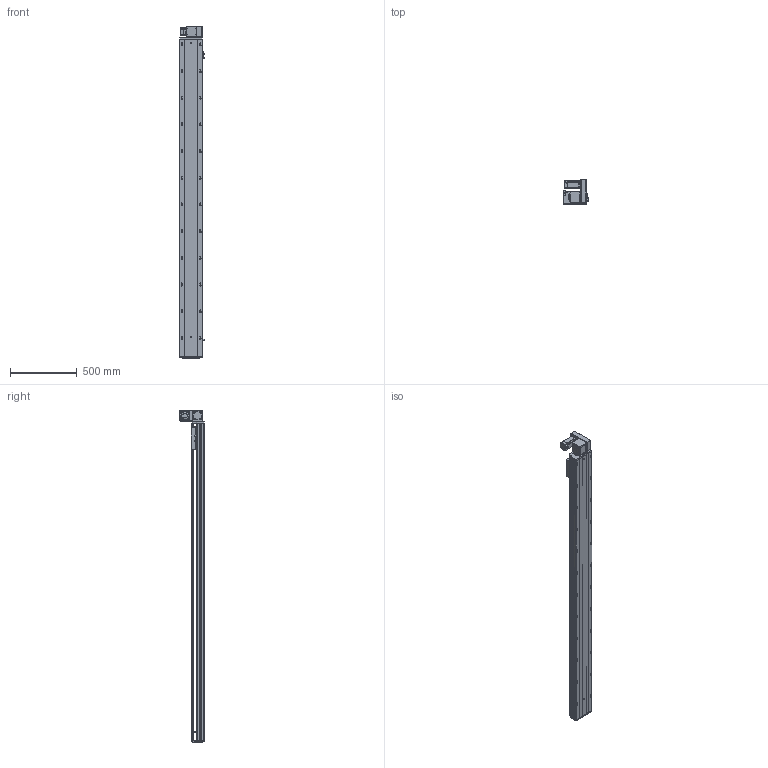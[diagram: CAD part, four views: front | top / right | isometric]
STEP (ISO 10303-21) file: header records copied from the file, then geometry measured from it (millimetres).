
FILE_DESCRIPTION (( 'STEP AP203' ), '1' );
FILE_NAME ('RY170-T-300-UR-P400W.SLDASM_2100.step', '2021-03-01T09:29:14', ( '盈信电脑' ), ( '东莞市道滘镇水果街19号' ), 'SwSTEP 2.0', 'SolidWorks 2012', '' );
FILE_SCHEMA (( 'CONFIG_CONTROL_DESIGN' ));
Length unit declared in the file: millimetre
Products named in the file (18): 滅袉蝶18-10; RY170-T-300-UR-P400W.SLDASM_2100; 15; RY170-T肮祭謫裔啣; RY170-T肮祭湍揤踡輸2; RY170-T蹟翐M4; RY120-T主同步轮轴承压盖; RY170肮祭謫萇儂欶; RY170同步轮电机安装板(400W); RY170-T肮祭湍揤踡輸1; RY170翋肮祭謫釱; RY170外置感应片(200共用）; RY170肮祭謫ヶ裔啣; RY170綴裔啣; 覜茼ん672; RY170-T-300肮祭謫倰第菁釱-DR_2100; RY170-T-300肮祭謫倰第裔啣-DR_2100; RY170肮祭湍臏賑輸
Assembly tree (22 placements, depth 2):
  RY170-T-300-UR-P400W.SLDASM_2100
    RY170-T-300肮祭謫倰第菁釱-DR_2100
    RY170肮祭湍臏賑輸
    RY170-T-300肮祭謫倰第裔啣-DR_2100
    RY170綴裔啣
    覜茼ん672  x3
    RY170外置感应片(200共用）
    RY170肮祭謫ヶ裔啣
    RY170翋肮祭謫釱
    RY170同步轮电机安装板(400W)
    RY170肮祭謫萇儂欶
    RY170-T肮祭湍揤踡輸1  x2
    RY170-T肮祭湍揤踡輸2  x2
    RY120-T主同步轮轴承压盖
    RY170-T肮祭謫裔啣
    RY170-T蹟翐M4
    滅袉蝶18-10  x2
    15
Bounding box: 183.7 x 182 x 2488 mm (x, y, z)
Volume: 11504705.4 mm3; surface area: 3967988.3 mm2
Topology: 22 solids, 22 shells, 3028 faces, 8494 edges, 5411 vertices
Faces by surface type: cylinder 1416, plane 1270, cone 312, bspline 30
Entity records: 92216 total; most frequent: CARTESIAN_POINT 21413, ORIENTED_EDGE 14544, DIRECTION 14168, EDGE_CURVE 7272, AXIS2_PLACEMENT_3D 5036, VERTEX_POINT 4767, LINE 4096, VECTOR 4096
